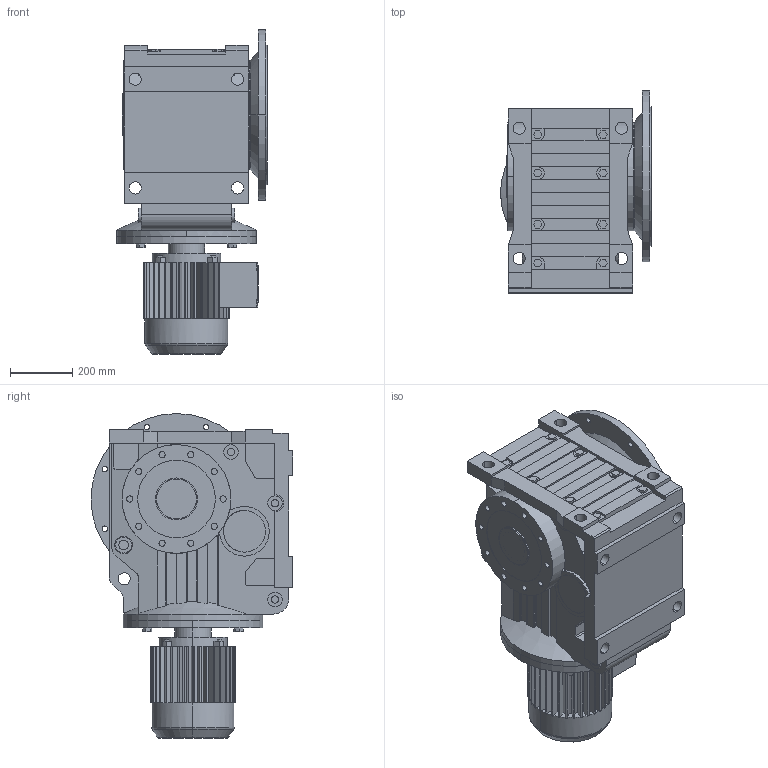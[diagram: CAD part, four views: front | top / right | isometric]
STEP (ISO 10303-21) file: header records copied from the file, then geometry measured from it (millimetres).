
FILE_DESCRIPTION(('Open CASCADE Model'),'2;1');
FILE_NAME('Open CASCADE Shape Model','2021-07-20T14:35:44',('Author'),( 'Open CASCADE'),'Open CASCADE STEP processor 6.3','Open CASCADE 6.3' ,'Unknown');
FILE_SCHEMA(('AUTOMOTIVE_DESIGN_CC2 { 1 2 10303 214 -1 1 5 4 }'));
Length unit declared in the file: millimetre
Products named in the file (5): 1_KAF127DV132M-A; KA127‵157_127.step; 萇儂_450-DV132M-381-493-275-230.step; す瑩諾陑粣K_127.step; 楊擘K_127.step
Assembly tree (4 placements, depth 2):
  1_KAF127DV132M-A
    KA127‵157_127.step
    萇儂_450-DV132M-381-493-275-230.step
    す瑩諾陑粣K_127.step
    楊擘K_127.step
Bounding box: 486 x 650 x 1046 mm (x, y, z)
Volume: 132333590.1 mm3; surface area: 4067953.9 mm2
Topology: 4 solids, 4 shells, 936 faces, 2446 edges, 1595 vertices
Faces by surface type: plane 600, cylinder 324, cone 8, torus 4
Entity records: 67319 total; most frequent: CARTESIAN_POINT 21162, DIRECTION 7830, ORIENTED_EDGE 4892, PCURVE 4892, DEFINITIONAL_REPRESENTATION 4892, LINE 4023, VECTOR 4023, EDGE_CURVE 2446
